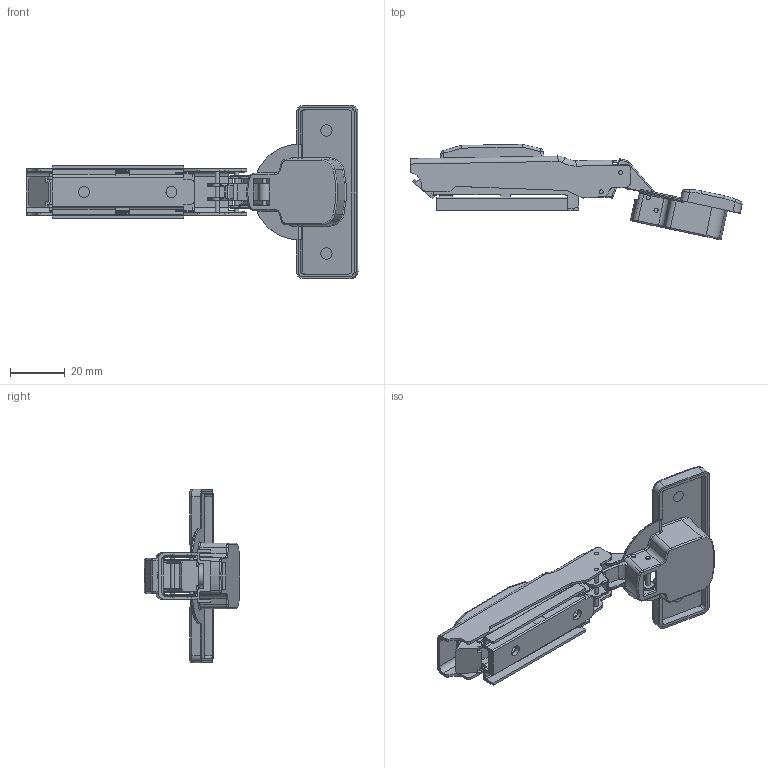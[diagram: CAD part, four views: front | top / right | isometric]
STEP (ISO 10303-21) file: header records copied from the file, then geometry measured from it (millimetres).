
FILE_DESCRIPTION(/* description */ (''),/* implementation_level */ '2;1');
FILE_NAME(/* name */ 'D:\$Workingspace\Designs\Katalog\Cadsoft\GTV Zawiasy\ZM-DCHCB(07)(08)(09)-3DBEO_PRO\ZM-DCHCB09-3DBEO_otw.stp',/* time_stamp */ '2021-07-26T10:15:08+02:00',/* author */ ('tomaszw'),/* organization */ (''),/* preprocessor_version */ 'ST-DEVELOPER v18.1',/* originating_system */ 'Autodesk Inventor 2021',/* authorisation */ '');
FILE_SCHEMA (('AUTOMOTIVE_DESIGN { 1 0 10303 214 3 1 1 }'));
Length unit declared in the file: millimetre
Products named in the file (14): ZM-DCHC09BEO; ZM-DCHCB_Prow; ZM-DCHC0_2; ZM-DCHC09; ZM-DCHC0_1; ZM-DCHC0_4-FI35_45_w; ZM-DCHC0_3; ZM-DCHC0_Pin1; ZM-DCHC0_5; ZM-ECHC0-NR9; REG_1; REG_2; ZM-DCHC0_Pin2; ZM-DCHCB_ZP
Assembly tree (15 placements, depth 2):
  ZM-DCHC09BEO
    ZM-DCHCB_Prow
    ZM-DCHC0_2
    ZM-DCHC09
    ZM-DCHC0_1
    ZM-DCHC0_4-FI35_45_w
    ZM-DCHC0_3
    ZM-DCHC0_Pin1  x2
    ZM-DCHC0_5
    ZM-ECHC0-NR9
    REG_1
    REG_2
    ZM-DCHC0_Pin2  x2
    ZM-DCHCB_ZP
Bounding box: 121.43 x 34.86 x 63.4 mm (x, y, z)
Volume: 12429.5 mm3; surface area: 28169.6 mm2
Topology: 16 solids, 17 shells, 830 faces, 2138 edges, 1349 vertices
Faces by surface type: plane 377, cylinder 306, torus 71, bspline 59, sphere 12, cone 5
Full cylindrical faces by diameter (mm): 1.5 x19, 4 x2, 7 x3, 7.4 x1, 8 x1, 8.5 x2
Entity records: 27607 total; most frequent: CARTESIAN_POINT 5994, DIRECTION 4321, ORIENTED_EDGE 4256, EDGE_CURVE 2128, AXIS2_PLACEMENT_3D 1522, VERTEX_POINT 1345, LINE 1277, VECTOR 1277
